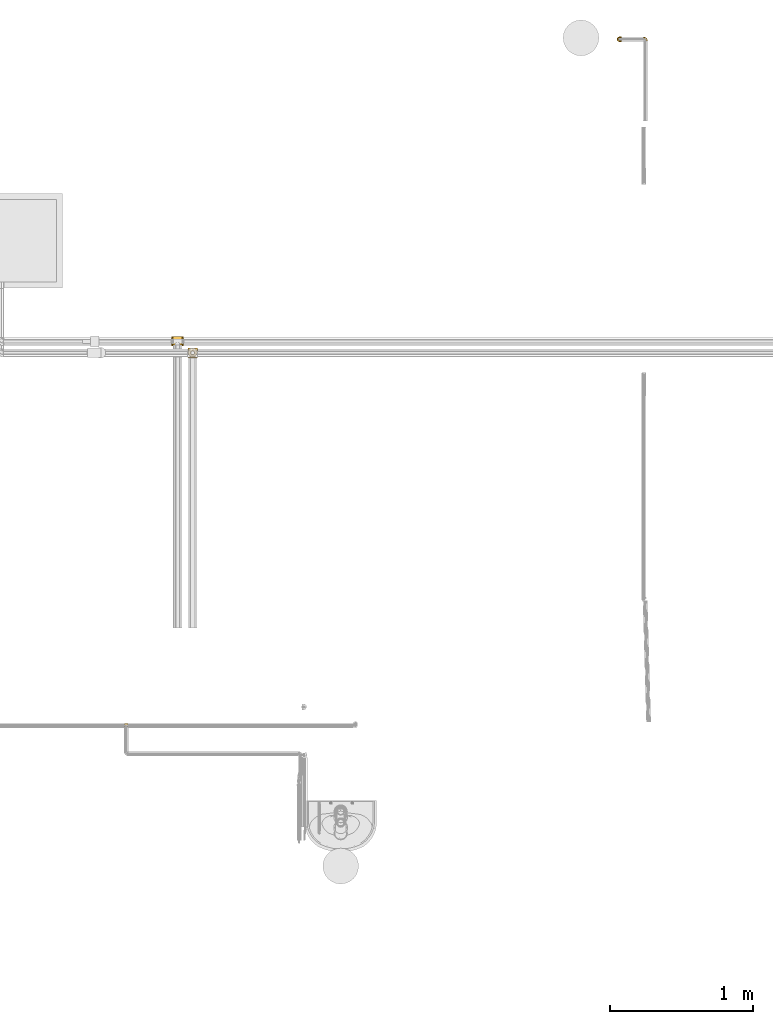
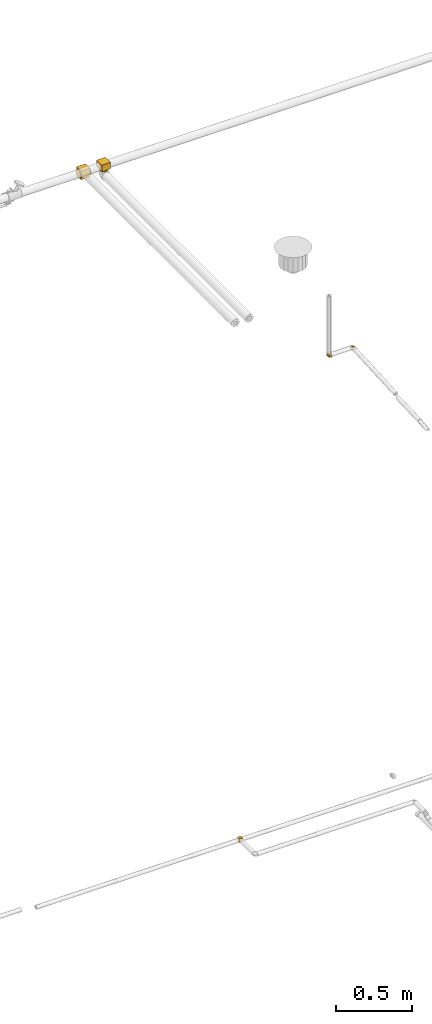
# One storey, part 8 of 108: 8 coverings.
"""IFC2X3 building model written with IfcOpenShell, lengths in millimetres."""

from ifc_helpers import new_model, entity, si_unit, converted_unit, derived_unit, direction, frame, origin_with_axes, origin_2d_with_axis, place, context, subcontext, project, spatial, hollow_circle, extrude, open_shell, surface_model, source, transform, mapped, element, save


model = new_model("IFC2X3")

# Units and contexts
model_context = context("Model", 3, precision=0.01, world=frame((0.0, 4.29681676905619e-09, 0.0)), true_north=direction((4.01073788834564e-13, 1.0)))
plan_context = context("Plan", 3, precision=0.01, world=frame((0.0, 4.29681676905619e-09, 0.0)), true_north=direction((4.01073788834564e-13, 1.0)))
body_context = subcontext(model_context, "Body", "Model", "MODEL_VIEW")
ifc_project = project(units=[converted_unit("PLANEANGLEUNIT", "DEGREE", entity("IfcPositiveLengthMeasure", 0.0174532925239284), si_unit("PLANEANGLEUNIT", "RADIAN"), dimensions=[0, 0, 0, 0, 0, 0, 0]), si_unit("AREAUNIT", "SQUARE_METRE"), si_unit("LENGTHUNIT", "METRE", prefix="MILLI"), si_unit("MASSUNIT", "GRAM", prefix="KILO"), si_unit("POWERUNIT", "WATT"), si_unit("PRESSUREUNIT", "PASCAL", prefix="KILO"), si_unit("FORCEUNIT", "NEWTON", prefix="KILO"), si_unit("ELECTRICVOLTAGEUNIT", "VOLT"), si_unit("ELECTRICCURRENTUNIT", "AMPERE"), si_unit("THERMODYNAMICTEMPERATUREUNIT", "DEGREE_CELSIUS"), si_unit("TIMEUNIT", "SECOND"), si_unit("VOLUMEUNIT", "CUBIC_METRE"), derived_unit("LINEARVELOCITYUNIT", [(si_unit("LENGTHUNIT", "METRE"), 1), (si_unit("TIMEUNIT", "SECOND"), -1)]), derived_unit("VOLUMETRICFLOWRATEUNIT", [(si_unit("VOLUMEUNIT", "CUBIC_METRE"), 1), (si_unit("TIMEUNIT", "SECOND"), -1)]), derived_unit("THERMALTRANSMITTANCEUNIT", [(si_unit("POWERUNIT", "WATT"), 1), (si_unit("THERMODYNAMICTEMPERATUREUNIT", "KELVIN"), -1), (si_unit("AREAUNIT", "SQUARE_METRE"), -1)]), derived_unit("SOUNDPRESSUREUNIT", [(si_unit("PRESSUREUNIT", "PASCAL"), 1)])], contexts=[model_context, plan_context])

# Site, building, storey
site_placement = place(None, frame((0.0, -4.29681676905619e-09, 0.0), z_axis=(0.0, 0.0, 1.0), x_axis=(1.0, 0.0, 0.0)))
site = spatial("IfcSite", under=ifc_project, at=site_placement, CompositionType="ELEMENT")
building_placement = place(site_placement, frame((0.0, 4.29681676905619e-09, 0.0), z_axis=(0.0, 0.0, 1.0), x_axis=(1.0, 0.0, 0.0)))
building = spatial("IfcBuilding", under=site, at=building_placement, Name="mc-building", CompositionType="ELEMENT")
storey_placement = place(building_placement, frame((0.0, 0.0, 210200.0), z_axis=(0.0, 0.0, 1.0), x_axis=(1.0, 0.0, 0.0)))
storey = spatial("IfcBuildingStorey", under=building, at=storey_placement, Name="Nivå F - 0,7 m", CompositionType="ELEMENT", Elevation=210200.0)

# Coverings
shared_shape_1 = source(origin_with_axes(), body_context, "Body", "SurfaceModel", [
    surface_model("IfcShellBasedSurfaceModel", [(-33.8, 34.9, 34.9), (-33.8, -25.35, 34.9), (33.8, -25.35, 34.9), (33.8, 34.9, 34.9), (33.8, 34.9, -34.9), (33.8, -25.35, -34.9), (-33.8, -25.35, -34.9), (-33.8, 34.9, -34.9)], [open_shell([[[0, 1, 2]], [[2, 3, 0]], [[4, 5, 6]], [[6, 7, 4]], [[2, 1, 6]], [[6, 5, 2]], [[3, 2, 5]], [[5, 4, 3]], [[0, 3, 4]], [[4, 7, 0]], [[1, 0, 7]], [[7, 6, 1]]])]),
])
covering_1_placement = place(storey_placement, frame((338272.06087, 463983.47358, 2880.0), z_axis=(0.0, 0.0, 1.0), x_axis=(1.0, 0.0, 0.0)))
element("IfcCovering", 1, at=covering_1_placement, inside=storey, Name="BI10T - Cellegummi 18-32 mm kalde rør", PredefinedType="INSULATION", context=body_context, shape_type="MappedRepresentation", body=[
    mapped(shared_shape_1, transform((0.0, 0.0, 0.0), scale=1.0)),
])
shared_shape_2 = source(origin_with_axes(), body_context, "Body", "SurfaceModel", [
    surface_model("IfcShellBasedSurfaceModel", [(7.0, 15.7, 27.1932), (7.0, -15.7, 27.1932), (7.0, -27.1932, 15.7), (7.0, -27.1932, -15.7), (7.0, 0.0, 31.4), (7.0, 27.1932, 15.7), (7.0, 31.4, 0.0), (7.0, -31.4, 0.0), (7.0, -15.7, -27.1932), (7.0, 0.0, -31.4), (7.0, 15.7, -27.1932), (7.0, 27.1932, -15.7), (0.0, -31.4, 0.0), (0.0, 0.0, 31.4), (0.0, 15.7, 27.1932), (0.0, 27.1932, 15.7), (0.0, -27.1932, 15.7), (0.0, -15.7, 27.1932), (0.0, -15.7, -27.1932), (0.0, 31.4, 0.0), (0.0, 27.1932, -15.7), (0.0, 15.7, -27.1932), (0.0, -27.1932, -15.7), (0.0, 0.0, -31.4), (0.0, -29.2966, -7.85), (7.0, -29.8355, -5.8388), (0.0, -21.4466, -21.4466), (7.0, -7.85, -29.2966), (0.0, -5.8388, -29.8355), (7.0, -21.4466, -21.4466), (0.0, 7.85, -29.2966), (7.0, 5.8388, -29.8355), (0.0, 21.4466, -21.4466), (7.0, 29.2966, -7.85), (0.0, 29.8355, -5.8388), (7.0, 21.4466, -21.4466), (0.0, 29.2966, 7.85), (7.0, 29.8355, 5.8388), (0.0, 21.4466, 21.4466), (7.0, 7.85, 29.2966), (0.0, 5.8388, 29.8355), (7.0, 21.4466, 21.4466), (0.0, -7.85, 29.2966), (7.0, -5.8388, 29.8355), (0.0, -21.4466, 21.4466), (7.0, -29.2966, 7.85), (0.0, -29.8355, 5.8388), (7.0, -21.4466, 21.4466)], [open_shell([[[0, 1, 2]], [[3, 0, 2]], [[1, 0, 4]], [[5, 0, 6]], [[3, 2, 7]], [[3, 8, 9]], [[3, 9, 10]], [[6, 10, 11]], [[10, 6, 3]], [[3, 6, 0]], [[12, 13, 14]], [[12, 14, 15]], [[13, 16, 17]], [[16, 13, 12]], [[15, 18, 12]], [[19, 20, 21]], [[19, 21, 18]], [[18, 22, 12]], [[18, 21, 23]], [[18, 15, 19]], [[3, 24, 22]], [[12, 25, 7]], [[25, 12, 24]], [[8, 26, 18]], [[18, 27, 8]], [[27, 18, 28]], [[26, 8, 29]], [[28, 9, 27]], [[29, 3, 22]], [[29, 22, 26]], [[28, 23, 9]], [[3, 25, 24]], [[10, 30, 21]], [[23, 31, 9]], [[31, 23, 30]], [[11, 32, 20]], [[20, 33, 11]], [[33, 20, 34]], [[32, 11, 35]], [[34, 6, 33]], [[35, 10, 21]], [[35, 21, 32]], [[34, 19, 6]], [[10, 31, 30]], [[5, 36, 15]], [[19, 37, 6]], [[37, 19, 36]], [[0, 38, 14]], [[14, 39, 0]], [[39, 14, 40]], [[38, 0, 41]], [[40, 4, 39]], [[41, 5, 15]], [[41, 15, 38]], [[40, 13, 4]], [[5, 37, 36]], [[1, 42, 17]], [[13, 43, 4]], [[43, 13, 42]], [[2, 44, 16]], [[16, 45, 2]], [[45, 16, 46]], [[44, 2, 47]], [[46, 7, 45]], [[47, 1, 17]], [[47, 17, 44]], [[46, 12, 7]], [[1, 43, 42]]])]),
])
for number, where, z_axis, x_axis in (
    (2, (338238.26087, 463983.47358, 2880.0), (0.0, 0.0, 1.0), (-1.0, 0.0, 0.0)),
    (3, (338305.86087, 463983.47358, 2880.0), (0.0, 0.0, 1.0), (1.0, 0.0, 0.0)),
):
    element("IfcCovering", number, at=place(storey_placement, frame(where, z_axis=z_axis, x_axis=x_axis)), inside=storey, Name="BI10T - Cellegummi 18-32 mm kalde rør", PredefinedType="INSULATION", context=body_context, shape_type="MappedRepresentation", body=[
        mapped(shared_shape_2, transform((0.0, 0.0, 0.0), scale=1.0)),
    ])
shared_shape_3 = source(origin_with_axes(), body_context, "Body", "SweptSolid", [
    extrude(hollow_circle(Radius=30.5, WallThickness=18.0, at=origin_2d_with_axis()), frame((0.0, 0.0, 0.0), z_axis=(1.0, 0.0, 0.0), x_axis=(0.0, 1.0, 0.0)), (0.0, 0.0, 1.0), 14.1),
])
covering_2_placement = place(storey_placement, frame((338377.15721, 463903.47358, 2927.89999999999), z_axis=(0.0, 1.0, 0.0), x_axis=(0.0, 0.0, -1.0)))
element("IfcCovering", 4, at=covering_2_placement, inside=storey, Name="BI10T - Cellegummi 18-32 mm kalde rør", PredefinedType="INSULATION", context=body_context, shape_type="MappedRepresentation", body=[
    mapped(shared_shape_3, transform((0.0, 0.0, 0.0), scale=1.0)),
])
shared_shape_4 = source(origin_with_axes(), body_context, "Body", "SurfaceModel", [
    surface_model("IfcShellBasedSurfaceModel", [(33.8, 31.4, 34.9), (33.8, 31.4, -34.9), (-33.8, 31.4, -34.9), (-33.8, 31.4, 34.9), (-33.8, -20.1, 34.9), (-33.8, -20.1, -34.9), (33.8, -20.1, -34.9), (33.8, -20.1, 34.9)], [open_shell([[[0, 1, 2]], [[2, 3, 0]], [[4, 5, 6]], [[6, 7, 4]], [[2, 1, 6]], [[6, 5, 2]], [[3, 2, 5]], [[5, 4, 3]], [[0, 3, 4]], [[4, 7, 0]], [[1, 0, 7]], [[7, 6, 1]]])]),
])
covering_3_placement = place(storey_placement, frame((338377.15721, 463903.47358, 2948.0), z_axis=(0.0, 1.0, 0.0), x_axis=(-1.0, 0.0, 0.0)))
element("IfcCovering", 5, at=covering_3_placement, inside=storey, Name="BI10T - Cellegummi 18-32 mm kalde rør", PredefinedType="INSULATION", context=body_context, shape_type="MappedRepresentation", body=[
    mapped(shared_shape_4, transform((0.0, 0.0, 0.0), scale=1.0)),
])
shared_shape_5 = source(origin_with_axes(), body_context, "Body", "SurfaceModel", [
    surface_model("IfcShellBasedSurfaceModel", [(12.0, 16.0, -16.0), (12.0, -9.0, -16.0), (-12.0, -9.0, -16.0), (-12.0, 16.0, -16.0), (-12.0, 16.0, 16.0), (-12.0, -9.0, 16.0), (12.0, -9.0, 16.0), (12.0, 16.0, 16.0)], [open_shell([[[0, 1, 2]], [[2, 3, 0]], [[4, 5, 6]], [[6, 7, 4]], [[2, 1, 6]], [[6, 5, 2]], [[3, 2, 4]], [[5, 4, 2]], [[0, 3, 4]], [[4, 7, 0]], [[1, 0, 6]], [[7, 6, 0]]])]),
])
covering_4_placement = place(storey_placement, frame((337914.44674, 461303.19294, -735.809999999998), z_axis=(0.0, 0.0, -1.0), x_axis=(-1.0, 0.0, 0.0)))
element("IfcCovering", 6, at=covering_4_placement, inside=storey, Name="BI10T - Cellegummi 18-32 mm kalde rør", PredefinedType="INSULATION", context=body_context, shape_type="MappedRepresentation", body=[
    mapped(shared_shape_5, transform((0.0, 0.0, 0.0), scale=1.0)),
])
shared_shape_6 = source(origin_with_axes(), body_context, "Body", "SurfaceModel", [
    surface_model("IfcShellBasedSurfaceModel", [(-12.0, -13.85641, -8.0), (-5.03247, -13.85987, -6.12293), (-12.0, -15.45481, -4.1411), (-12.0, -4.1411, -15.45481), (-12.0, 0.0, -16.0), (-9.76246, 0.92682, -16.0), (-8.00733, -5.67765, -14.78207), (-12.0, -8.0, -13.85641), (-7.54784, -2.39756, -15.70267), (-3.63176, -4.07524, -14.78207), (-5.63604, 2.63604, -16.0), (-4.79906, -1.31711, -15.689), (-7.75736, 1.75736, -16.0), (-0.69336, -6.92814, -12.45141), (1.52128, -1.94633, -14.17291), (4.61844, -4.34796, -11.31587), (-1.40197, -13.58592, -3.11424), (2.0, -12.24871, 0.0), (-5.0, -14.12436, 0.0), (14.41429, 12.0, -6.94466), (15.59844, 12.0, -3.56211), (14.24408, 5.23741, -5.28665), (-6.34415, -8.99159, -12.69365), (-12.0, -11.31371, -11.31371), (-7.65622, -12.3086, -9.74018), (-2.45593, -10.7747, -9.74018), (4.73569, 7.688, -15.1029), (1.86313, 3.17522, -15.37346), (-1.85364, 7.52492, -16.0), (6.93982, 12.0, -14.41662), (3.5583, 12.0, -15.59931), (-0.92682, 9.76246, -16.0), (8.57767, 1.04585, -11.31574), (10.57428, 6.1836, -11.31587), (11.39922, 1.74937, -8.51502), (6.78659, 3.77012, -13.54906), (8.13639, 8.10223, -13.54906), (13.08049, 7.14532, -8.51502), (-1.99047, -0.19664, -15.54754), (16.0, 12.0, 0.0), (14.5162, 6.46237, 0.0), (11.3314, -2.18346, -4.66674), (12.50736, 12.0, -9.97828), (9.97351, 12.0, -12.51116), (12.24871, -2.0, 0.0), (7.70045, -7.39045, -3.36427), (7.12436, -7.12436, 0.0), (0.0, 12.0, -16.0), (5.19882, -0.42031, -13.08011), (-3.51472, 3.51472, -16.0), (-2.68418, 5.51982, -16.0), (3.59684, -7.87744, -8.94491), (-0.21662, -12.1545, -5.89255), (-6.77177, -15.21504, -3.01853), (8.0134, -4.27963, -8.09946), (3.28113, -11.1475, -2.89122), (-12.0, -16.0, 0.0), (4.19939, -9.54735, -5.68087), (6.78954, 3.76475, 13.54601), (4.73952, 7.68531, 15.10137), (1.86167, 3.16921, 15.37288), (-6.77176, -15.21504, 3.01854), (-5.03467, -13.86047, 6.12293), (-0.21747, -12.15431, 5.89392), (-2.4617, -10.77712, 9.74018), (-7.65963, -12.30921, 9.74018), (5.20201, -0.42642, 13.07577), (1.52419, -1.94826, 14.17113), (3.56211, 12.0, 15.59844), (-0.92682, 9.76246, 16.0), (-1.98921, -0.19819, 15.54705), (-4.92147, -1.01505, 15.75034), (-3.63176, -4.07524, 14.78207), (8.58107, 1.04357, 11.31167), (10.57805, 6.18096, 11.31155), (-12.0, -11.31371, 11.31371), (-6.34594, -8.99207, 12.69365), (-12.0, -8.0, 13.85641), (-12.0, -13.85641, 8.0), (-12.0, -15.45481, 4.1411), (11.40021, 1.74404, 8.51016), (13.083, 7.14222, 8.51016), (-8.00733, -5.67765, 14.78207), (-12.0, -4.1411, 15.45481), (8.1408, 8.09946, 13.54601), (9.97828, 12.0, 12.50736), (-0.69598, -6.93177, 12.44997), (11.33564, -2.17879, 4.66282), (14.24527, 5.23589, 5.28227), (-9.76246, 0.92682, 16.0), (-12.0, 0.0, 16.0), (12.51116, 12.0, 9.97351), (15.59931, 12.0, 3.5583), (14.41662, 12.0, 6.93982), (6.94466, 12.0, 14.41429), (-7.54784, -2.39756, 15.70267), (-7.75736, 1.75736, 16.0), (8.01191, -4.28703, 8.09348), (-1.85364, 7.52492, 16.0), (-2.68418, 5.51982, 16.0), (-3.51472, 3.51472, 16.0), (-5.63604, 2.63604, 16.0), (-1.402, -13.58584, 3.11468), (4.19965, -9.54643, 5.68239), (3.2823, -11.14659, 2.89182), (7.70289, -7.38757, 3.36557), (3.60197, -7.87677, 8.941), (4.61528, -4.35733, 11.31155), (0.0, 12.0, 16.0)], [open_shell([[[0, 1, 2]], [[3, 4, 5]], [[6, 7, 3]], [[6, 8, 9]], [[10, 11, 12]], [[13, 14, 15]], [[16, 17, 18]], [[19, 20, 21]], [[22, 23, 7]], [[23, 24, 0]], [[0, 24, 1]], [[22, 25, 24]], [[26, 27, 28]], [[29, 26, 30]], [[31, 30, 26]], [[32, 33, 34]], [[25, 22, 13]], [[35, 36, 33]], [[21, 37, 19]], [[29, 36, 26]], [[27, 14, 38]], [[20, 39, 40]], [[35, 33, 32]], [[34, 21, 41]], [[42, 19, 37]], [[33, 43, 42]], [[21, 44, 41]], [[37, 33, 42]], [[45, 44, 46]], [[34, 37, 21]], [[31, 47, 30]], [[36, 29, 43]], [[20, 40, 21]], [[27, 26, 35]], [[44, 21, 40]], [[32, 48, 35]], [[27, 49, 50]], [[6, 22, 7]], [[13, 15, 51]], [[25, 51, 52]], [[1, 16, 53]], [[15, 54, 51]], [[54, 34, 41]], [[46, 55, 45]], [[54, 15, 32]], [[16, 55, 17]], [[2, 53, 56]], [[33, 37, 34]], [[33, 36, 43]], [[26, 36, 35]], [[5, 8, 3]], [[22, 6, 9]], [[22, 9, 13]], [[14, 13, 9]], [[9, 8, 11]], [[48, 27, 35]], [[45, 54, 41]], [[55, 46, 17]], [[51, 54, 57]], [[8, 5, 12]], [[38, 10, 49]], [[3, 8, 6]], [[38, 9, 11]], [[12, 11, 8]], [[9, 38, 14]], [[53, 16, 18]], [[52, 16, 1]], [[56, 53, 18]], [[1, 53, 2]], [[54, 32, 34]], [[48, 15, 14]], [[15, 48, 32]], [[27, 48, 14]], [[52, 51, 57]], [[13, 51, 25]], [[22, 24, 23]], [[1, 24, 25]], [[25, 52, 1]], [[55, 52, 57]], [[52, 55, 16]], [[55, 57, 45]], [[54, 45, 57]], [[44, 45, 41]], [[26, 28, 31]], [[49, 27, 38]], [[50, 28, 27]], [[10, 38, 11]], [[58, 59, 60]], [[56, 18, 61]], [[62, 63, 64]], [[62, 64, 65]], [[66, 60, 67]], [[68, 69, 59]], [[70, 71, 72]], [[73, 74, 58]], [[75, 76, 77]], [[78, 79, 62]], [[74, 80, 81]], [[82, 83, 77]], [[84, 74, 85]], [[64, 86, 76]], [[87, 44, 88]], [[83, 89, 90]], [[74, 91, 85]], [[40, 88, 44]], [[75, 78, 65]], [[88, 92, 93]], [[40, 39, 92]], [[59, 94, 68]], [[94, 84, 85]], [[95, 96, 89]], [[73, 80, 74]], [[97, 87, 80]], [[75, 65, 76]], [[67, 72, 86]], [[81, 88, 93]], [[84, 59, 58]], [[60, 59, 98]], [[93, 91, 81]], [[88, 80, 87]], [[60, 98, 99]], [[40, 92, 88]], [[100, 60, 99]], [[70, 101, 71]], [[18, 17, 102]], [[102, 63, 62]], [[103, 104, 105]], [[106, 103, 97]], [[64, 106, 86]], [[82, 76, 72]], [[80, 73, 97]], [[46, 105, 104]], [[18, 102, 61]], [[74, 81, 91]], [[88, 81, 80]], [[59, 84, 94]], [[74, 84, 58]], [[76, 82, 77]], [[95, 83, 82]], [[67, 86, 107]], [[87, 105, 44]], [[72, 76, 86]], [[107, 73, 66]], [[60, 100, 70]], [[106, 97, 107]], [[105, 97, 103]], [[70, 72, 67]], [[83, 95, 89]], [[72, 95, 82]], [[101, 70, 100]], [[95, 71, 96]], [[60, 70, 67]], [[104, 102, 17]], [[61, 62, 79]], [[62, 61, 102]], [[56, 61, 79]], [[66, 73, 58]], [[97, 73, 107]], [[60, 66, 58]], [[107, 66, 67]], [[86, 106, 107]], [[63, 106, 64]], [[62, 65, 78]], [[76, 65, 64]], [[46, 104, 17]], [[63, 104, 103]], [[44, 105, 46]], [[97, 105, 87]], [[104, 63, 102]], [[63, 103, 106]], [[69, 68, 108]], [[69, 98, 59]], [[96, 71, 101]], [[72, 71, 95]]])]),
])
for number, where, z_axis, x_axis in (
    (7, (341354.44567, 466090.75941, -948.073130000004), (0.0, -1.0, 0.0), (0.0, 0.0, -1.0)),
    (8, (341534.44567, 466090.75941, -948.073130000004), (0.0, -0.0552160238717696, 0.998474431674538), (0.0, 0.998474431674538, 0.0552160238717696)),
):
    element("IfcCovering", number, at=place(storey_placement, frame(where, z_axis=z_axis, x_axis=x_axis)), inside=storey, Name="BI10T - Cellegummi 18-32 mm kalde rør", PredefinedType="INSULATION", context=body_context, shape_type="MappedRepresentation", body=[
        mapped(shared_shape_6, transform((0.0, 0.0, 0.0), scale=1.0)),
    ])

save(model, "model.ifc")
